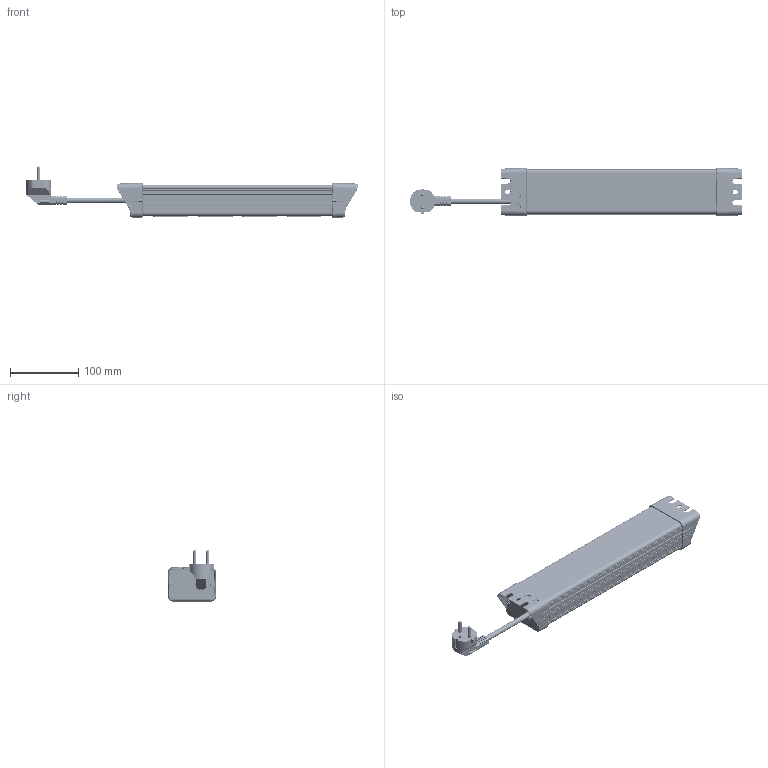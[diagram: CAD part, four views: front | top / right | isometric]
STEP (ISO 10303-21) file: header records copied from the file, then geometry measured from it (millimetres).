
FILE_DESCRIPTION(('Creo Elements/Direct Modeling STEP Export'),'2;1');
FILE_NAME('226120010 Kundenstep.stp','2025-03-31T13:50:27',(''),(''),'Creo Elements/Direct Modeling STEP processor for AP214 (Solid Model)','Creo Elements/Direct Modeling 20.5 09-Apr-2022 (C) Parametric Technology GmbH','');
FILE_SCHEMA(('AUTOMOTIVE_DESIGN { 1 0 10303 214 1 1 1 1 }'));
Products named in the file (2): 226120010-Kundenstep
Assembly tree (1 placements, depth 2):
  226120010-Kundenstep
    226120010-Kundenstep
Bounding box: 485.46 x 70.97 x 75.19 mm (x, y, z)
Volume: 241667 mm3; surface area: 271959.4 mm2
Topology: 1 solids, 17 shells, 9523 faces, 27202 edges, 17722 vertices
Faces by surface type: plane 6625, cylinder 1609, bspline 458, cone 375, torus 306, extrusion 106, sphere 44
Entity records: 418765 total; most frequent: CARTESIAN_POINT 178349, ORIENTED_EDGE 54268, DIRECTION 43088, EDGE_CURVE 27134, VECTOR 19236, LINE 19130, VERTEX_POINT 17722, AXIS2_PLACEMENT_3D 11926
